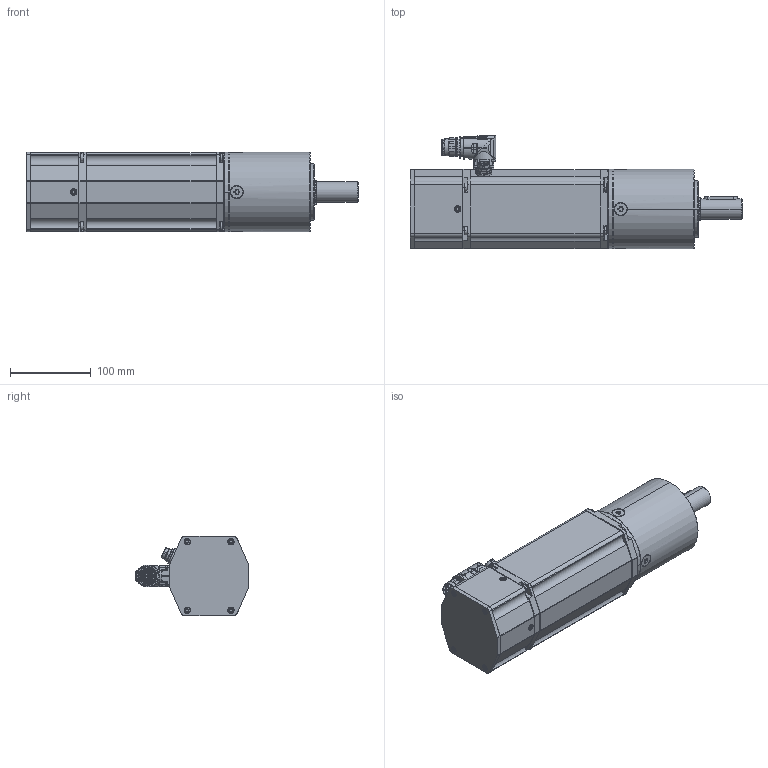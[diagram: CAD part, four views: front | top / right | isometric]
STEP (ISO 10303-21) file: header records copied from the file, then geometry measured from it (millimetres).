
FILE_DESCRIPTION((''),'2;1');
FILE_NAME('9659503030_SW0001','2018-10-04T',('HMeister'),(''),'CREO PARAMETRIC BY PTC INC, 2016050','CREO PARAMETRIC BY PTC INC, 2016050','');
FILE_SCHEMA(('CONFIG_CONTROL_DESIGN'));
Products named in the file (1): 9659503030_SW0001
Bounding box: 410.45 x 140.3 x 98 mm (x, y, z)
Volume: 1377829.8 mm3; surface area: 331839.1 mm2
Topology: 3 solids, 8 shells, 3102 faces, 7816 edges, 4847 vertices
Faces by surface type: cylinder 953, bspline 684, plane 664, cone 386, torus 379, sphere 36
Entity records: 124117 total; most frequent: CARTESIAN_POINT 54056, ORIENTED_EDGE 15500, DIRECTION 13705, EDGE_CURVE 7750, AXIS2_PLACEMENT_3D 5685, VERTEX_POINT 4844, EDGE_LOOP 3318, CIRCLE 3266
